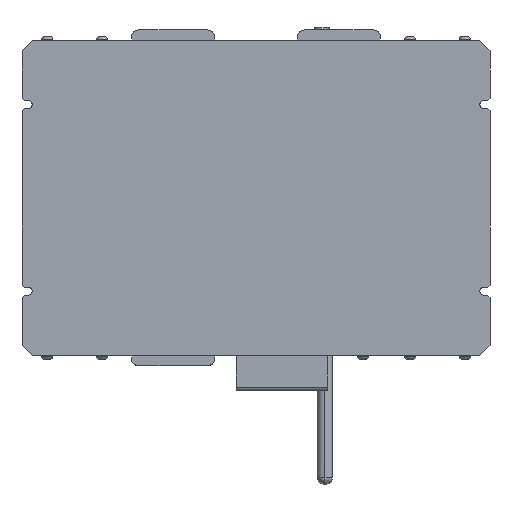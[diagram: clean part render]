
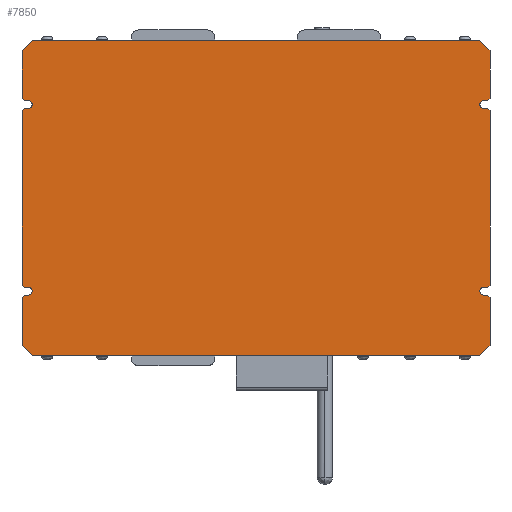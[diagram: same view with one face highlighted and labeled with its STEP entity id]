
A CAD part, front view. The second image highlights one B-rep face of the part: STEP entity #7850.
In plain terms, the highlighted planar face has unit normal (0, -1, 0).
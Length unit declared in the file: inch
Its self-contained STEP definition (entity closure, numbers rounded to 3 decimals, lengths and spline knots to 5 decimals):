
#205=DIRECTION('',(1.,0.,0.));
#206=VECTOR('',#205,10.77859);
#207=CARTESIAN_POINT('',(-5.38929,0.,0.));
#208=LINE('',#207,#206);
#631=CARTESIAN_POINT('',(-5.48929,0.,1.5519));
#632=DIRECTION('',(0.,-1.,0.));
#633=DIRECTION('',(0.,0.,-1.));
#634=AXIS2_PLACEMENT_3D('',#631,#632,#633);
#636=DIRECTION('',(-1.,0.,0.));
#637=VECTOR('',#636,0.1);
#638=CARTESIAN_POINT('',(-5.48929,0.,1.64565));
#639=LINE('',#638,#637);
#640=DIRECTION('',(-0.707,0.,0.707));
#641=VECTOR('',#640,0.07071);
#642=CARTESIAN_POINT('',(-5.58929,0.,1.64565));
#643=LINE('',#642,#641);
#644=DIRECTION('',(0.,0.,1.));
#645=VECTOR('',#644,4.2125);
#646=CARTESIAN_POINT('',(-5.63929,0.,1.69565));
#647=LINE('',#646,#645);
#648=DIRECTION('',(0.707,0.,0.707));
#649=VECTOR('',#648,0.07071);
#650=CARTESIAN_POINT('',(-5.63929,0.,5.90815));
#651=LINE('',#650,#649);
#652=DIRECTION('',(1.,0.,0.));
#653=VECTOR('',#652,0.1);
#654=CARTESIAN_POINT('',(-5.58929,0.,5.95815));
#655=LINE('',#654,#653);
#656=CARTESIAN_POINT('',(-5.48929,0.,6.0519));
#657=DIRECTION('',(0.,-1.,0.));
#658=DIRECTION('',(0.,0.,-1.));
#659=AXIS2_PLACEMENT_3D('',#656,#657,#658);
#661=DIRECTION('',(-1.,0.,0.));
#662=VECTOR('',#661,0.1);
#663=CARTESIAN_POINT('',(-5.48929,0.,6.14565));
#664=LINE('',#663,#662);
#665=DIRECTION('',(-0.707,0.,0.707));
#666=VECTOR('',#665,0.07071);
#667=CARTESIAN_POINT('',(-5.58929,0.,6.14565));
#668=LINE('',#667,#666);
#669=DIRECTION('',(0.,0.,1.));
#670=VECTOR('',#669,1.15435);
#671=CARTESIAN_POINT('',(-5.63929,0.,6.19565));
#672=LINE('',#671,#670);
#673=DIRECTION('',(-0.707,0.,-0.707));
#674=VECTOR('',#673,0.35355);
#675=CARTESIAN_POINT('',(-5.38929,0.,7.6));
#676=LINE('',#675,#674);
#677=DIRECTION('',(-0.707,0.,0.707));
#678=VECTOR('',#677,0.35355);
#679=CARTESIAN_POINT('',(5.63929,0.,7.35));
#680=LINE('',#679,#678);
#681=DIRECTION('',(-0.707,0.,-0.707));
#682=VECTOR('',#681,0.07071);
#683=CARTESIAN_POINT('',(5.63929,0.,6.19565));
#684=LINE('',#683,#682);
#685=DIRECTION('',(-1.,0.,0.));
#686=VECTOR('',#685,0.1);
#687=CARTESIAN_POINT('',(5.58929,0.,6.14565));
#688=LINE('',#687,#686);
#689=CARTESIAN_POINT('',(5.48929,0.,6.0519));
#690=DIRECTION('',(0.,-1.,0.));
#691=DIRECTION('',(0.,0.,1.));
#692=AXIS2_PLACEMENT_3D('',#689,#690,#691);
#694=DIRECTION('',(1.,0.,0.));
#695=VECTOR('',#694,0.1);
#696=CARTESIAN_POINT('',(5.48929,0.,5.95815));
#697=LINE('',#696,#695);
#698=DIRECTION('',(0.707,0.,-0.707));
#699=VECTOR('',#698,0.07071);
#700=CARTESIAN_POINT('',(5.58929,0.,5.95815));
#701=LINE('',#700,#699);
#702=DIRECTION('',(-0.707,0.,-0.707));
#703=VECTOR('',#702,0.07071);
#704=CARTESIAN_POINT('',(5.63929,0.,1.69565));
#705=LINE('',#704,#703);
#706=DIRECTION('',(-1.,0.,0.));
#707=VECTOR('',#706,0.1);
#708=CARTESIAN_POINT('',(5.58929,0.,1.64565));
#709=LINE('',#708,#707);
#710=CARTESIAN_POINT('',(5.48929,0.,1.5519));
#711=DIRECTION('',(0.,-1.,0.));
#712=DIRECTION('',(0.,0.,1.));
#713=AXIS2_PLACEMENT_3D('',#710,#711,#712);
#715=DIRECTION('',(1.,0.,0.));
#716=VECTOR('',#715,0.1);
#717=CARTESIAN_POINT('',(5.48929,0.,1.45815));
#718=LINE('',#717,#716);
#719=DIRECTION('',(0.707,0.,-0.707));
#720=VECTOR('',#719,0.07071);
#721=CARTESIAN_POINT('',(5.58929,0.,1.45815));
#722=LINE('',#721,#720);
#723=DIRECTION('',(0.707,0.,0.707));
#724=VECTOR('',#723,0.35355);
#725=CARTESIAN_POINT('',(5.38929,0.,0.));
#726=LINE('',#725,#724);
#727=DIRECTION('',(0.707,0.,-0.707));
#728=VECTOR('',#727,0.35355);
#729=CARTESIAN_POINT('',(-5.63929,0.,0.25));
#730=LINE('',#729,#728);
#731=DIRECTION('',(0.,0.,1.));
#732=VECTOR('',#731,1.15815);
#733=CARTESIAN_POINT('',(-5.63929,0.,0.25));
#734=LINE('',#733,#732);
#735=DIRECTION('',(0.707,0.,0.707));
#736=VECTOR('',#735,0.07071);
#737=CARTESIAN_POINT('',(-5.63929,0.,1.40815));
#738=LINE('',#737,#736);
#739=DIRECTION('',(1.,0.,0.));
#740=VECTOR('',#739,0.1);
#741=CARTESIAN_POINT('',(-5.58929,0.,1.45815));
#742=LINE('',#741,#740);
#1025=DIRECTION('',(1.,0.,0.));
#1026=VECTOR('',#1025,10.77859);
#1027=CARTESIAN_POINT('',(-5.38929,0.,7.6));
#1028=LINE('',#1027,#1026);
#1971=DIRECTION('',(0.,0.,1.));
#1972=VECTOR('',#1971,1.15815);
#1973=CARTESIAN_POINT('',(5.63929,0.,0.25));
#1974=LINE('',#1973,#1972);
#1979=DIRECTION('',(0.,0.,1.));
#1980=VECTOR('',#1979,4.2125);
#1981=CARTESIAN_POINT('',(5.63929,0.,1.69565));
#1982=LINE('',#1981,#1980);
#1991=DIRECTION('',(0.,0.,1.));
#1992=VECTOR('',#1991,1.15435);
#1993=CARTESIAN_POINT('',(5.63929,0.,6.19565));
#1994=LINE('',#1993,#1992);
#6137=CARTESIAN_POINT('',(5.63929,0.,7.35));
#6138=VERTEX_POINT('',#6137);
#6139=CARTESIAN_POINT('',(5.38929,0.,7.6));
#6140=VERTEX_POINT('',#6139);
#6141=CARTESIAN_POINT('',(5.38929,0.,0.));
#6142=CARTESIAN_POINT('',(5.63929,0.,0.25));
#6143=VERTEX_POINT('',#6141);
#6144=VERTEX_POINT('',#6142);
#6149=CARTESIAN_POINT('',(-5.38929,0.,7.6));
#6150=CARTESIAN_POINT('',(-5.63929,0.,7.35));
#6151=VERTEX_POINT('',#6149);
#6152=VERTEX_POINT('',#6150);
#6161=CARTESIAN_POINT('',(-5.63929,0.,0.25));
#6162=VERTEX_POINT('',#6161);
#6163=CARTESIAN_POINT('',(-5.38929,0.,0.));
#6164=VERTEX_POINT('',#6163);
#6353=CARTESIAN_POINT('',(-5.63929,0.,1.69565));
#6354=VERTEX_POINT('',#6353);
#6355=CARTESIAN_POINT('',(-5.63929,0.,1.40815));
#6356=VERTEX_POINT('',#6355);
#6357=CARTESIAN_POINT('',(-5.63929,0.,6.19565));
#6358=VERTEX_POINT('',#6357);
#6359=CARTESIAN_POINT('',(-5.63929,0.,5.90815));
#6360=VERTEX_POINT('',#6359);
#6361=CARTESIAN_POINT('',(-5.48929,0.,1.45815));
#6362=CARTESIAN_POINT('',(-5.48929,0.,1.64565));
#6363=VERTEX_POINT('',#6361);
#6364=VERTEX_POINT('',#6362);
#6365=CARTESIAN_POINT('',(-5.58929,0.,1.64565));
#6366=VERTEX_POINT('',#6365);
#6367=CARTESIAN_POINT('',(-5.58929,0.,1.45815));
#6368=VERTEX_POINT('',#6367);
#6369=CARTESIAN_POINT('',(-5.48929,0.,5.95815));
#6370=CARTESIAN_POINT('',(-5.48929,0.,6.14565));
#6371=VERTEX_POINT('',#6369);
#6372=VERTEX_POINT('',#6370);
#6373=CARTESIAN_POINT('',(-5.58929,0.,6.14565));
#6374=VERTEX_POINT('',#6373);
#6375=CARTESIAN_POINT('',(-5.58929,0.,5.95815));
#6376=VERTEX_POINT('',#6375);
#6377=CARTESIAN_POINT('',(5.48929,0.,1.64565));
#6378=CARTESIAN_POINT('',(5.48929,0.,1.45815));
#6379=VERTEX_POINT('',#6377);
#6380=VERTEX_POINT('',#6378);
#6381=CARTESIAN_POINT('',(5.58929,0.,1.45815));
#6382=VERTEX_POINT('',#6381);
#6383=CARTESIAN_POINT('',(5.63929,0.,1.40815));
#6384=VERTEX_POINT('',#6383);
#6385=CARTESIAN_POINT('',(5.63929,0.,1.69565));
#6386=CARTESIAN_POINT('',(5.58929,0.,1.64565));
#6387=VERTEX_POINT('',#6385);
#6388=VERTEX_POINT('',#6386);
#6389=CARTESIAN_POINT('',(5.48929,0.,6.14565));
#6390=CARTESIAN_POINT('',(5.48929,0.,5.95815));
#6391=VERTEX_POINT('',#6389);
#6392=VERTEX_POINT('',#6390);
#6393=CARTESIAN_POINT('',(5.58929,0.,5.95815));
#6394=VERTEX_POINT('',#6393);
#6395=CARTESIAN_POINT('',(5.63929,0.,5.90815));
#6396=VERTEX_POINT('',#6395);
#6397=CARTESIAN_POINT('',(5.63929,0.,6.19565));
#6398=CARTESIAN_POINT('',(5.58929,0.,6.14565));
#6399=VERTEX_POINT('',#6397);
#6400=VERTEX_POINT('',#6398);
#7781=CARTESIAN_POINT('',(-5.63929,0.,0.));
#7782=DIRECTION('',(0.,-1.,0.));
#7783=DIRECTION('',(1.,0.,0.));
#7784=AXIS2_PLACEMENT_3D('',#7781,#7782,#7783);
#7785=PLANE('',#7784);
#7787=ORIENTED_EDGE('',*,*,#7786,.T.);
#7789=ORIENTED_EDGE('',*,*,#7788,.T.);
#7791=ORIENTED_EDGE('',*,*,#7790,.T.);
#7793=ORIENTED_EDGE('',*,*,#7792,.T.);
#7795=ORIENTED_EDGE('',*,*,#7794,.T.);
#7797=ORIENTED_EDGE('',*,*,#7796,.T.);
#7799=ORIENTED_EDGE('',*,*,#7798,.T.);
#7801=ORIENTED_EDGE('',*,*,#7800,.T.);
#7803=ORIENTED_EDGE('',*,*,#7802,.T.);
#7805=ORIENTED_EDGE('',*,*,#7804,.T.);
#7807=ORIENTED_EDGE('',*,*,#7806,.F.);
#7809=ORIENTED_EDGE('',*,*,#7808,.T.);
#7811=ORIENTED_EDGE('',*,*,#7810,.F.);
#7813=ORIENTED_EDGE('',*,*,#7812,.F.);
#7815=ORIENTED_EDGE('',*,*,#7814,.T.);
#7817=ORIENTED_EDGE('',*,*,#7816,.T.);
#7819=ORIENTED_EDGE('',*,*,#7818,.T.);
#7821=ORIENTED_EDGE('',*,*,#7820,.T.);
#7823=ORIENTED_EDGE('',*,*,#7822,.T.);
#7825=ORIENTED_EDGE('',*,*,#7824,.F.);
#7827=ORIENTED_EDGE('',*,*,#7826,.T.);
#7829=ORIENTED_EDGE('',*,*,#7828,.T.);
#7831=ORIENTED_EDGE('',*,*,#7830,.T.);
#7833=ORIENTED_EDGE('',*,*,#7832,.T.);
#7835=ORIENTED_EDGE('',*,*,#7834,.T.);
#7837=ORIENTED_EDGE('',*,*,#7836,.F.);
#7838=ORIENTED_EDGE('',*,*,#7771,.F.);
#7839=ORIENTED_EDGE('',*,*,#6932,.F.);
#7841=ORIENTED_EDGE('',*,*,#7840,.F.);
#7843=ORIENTED_EDGE('',*,*,#7842,.T.);
#7845=ORIENTED_EDGE('',*,*,#7844,.T.);
#7847=ORIENTED_EDGE('',*,*,#7846,.T.);
#7848=EDGE_LOOP('',(#7787,#7789,#7791,#7793,#7795,#7797,#7799,#7801,#7803,#7805,
#7807,#7809,#7811,#7813,#7815,#7817,#7819,#7821,#7823,#7825,#7827,#7829,#7831,
#7833,#7835,#7837,#7838,#7839,#7841,#7843,#7845,#7847));
#7849=FACE_OUTER_BOUND('',#7848,.F.);
#7850=ADVANCED_FACE('',(#7849),#7785,.T.);
#635=CIRCLE('',#634,0.09375);
#660=CIRCLE('',#659,0.09375);
#693=CIRCLE('',#692,0.09375);
#714=CIRCLE('',#713,0.09375);
#6932=EDGE_CURVE('',#6164,#6143,#208,.T.);
#7771=EDGE_CURVE('',#6143,#6144,#726,.T.);
#7786=EDGE_CURVE('',#6363,#6364,#635,.T.);
#7788=EDGE_CURVE('',#6364,#6366,#639,.T.);
#7790=EDGE_CURVE('',#6366,#6354,#643,.T.);
#7792=EDGE_CURVE('',#6354,#6360,#647,.T.);
#7794=EDGE_CURVE('',#6360,#6376,#651,.T.);
#7796=EDGE_CURVE('',#6376,#6371,#655,.T.);
#7798=EDGE_CURVE('',#6371,#6372,#660,.T.);
#7800=EDGE_CURVE('',#6372,#6374,#664,.T.);
#7802=EDGE_CURVE('',#6374,#6358,#668,.T.);
#7804=EDGE_CURVE('',#6358,#6152,#672,.T.);
#7806=EDGE_CURVE('',#6151,#6152,#676,.T.);
#7808=EDGE_CURVE('',#6151,#6140,#1028,.T.);
#7810=EDGE_CURVE('',#6138,#6140,#680,.T.);
#7812=EDGE_CURVE('',#6399,#6138,#1994,.T.);
#7814=EDGE_CURVE('',#6399,#6400,#684,.T.);
#7816=EDGE_CURVE('',#6400,#6391,#688,.T.);
#7818=EDGE_CURVE('',#6391,#6392,#693,.T.);
#7820=EDGE_CURVE('',#6392,#6394,#697,.T.);
#7822=EDGE_CURVE('',#6394,#6396,#701,.T.);
#7824=EDGE_CURVE('',#6387,#6396,#1982,.T.);
#7826=EDGE_CURVE('',#6387,#6388,#705,.T.);
#7828=EDGE_CURVE('',#6388,#6379,#709,.T.);
#7830=EDGE_CURVE('',#6379,#6380,#714,.T.);
#7832=EDGE_CURVE('',#6380,#6382,#718,.T.);
#7834=EDGE_CURVE('',#6382,#6384,#722,.T.);
#7836=EDGE_CURVE('',#6144,#6384,#1974,.T.);
#7840=EDGE_CURVE('',#6162,#6164,#730,.T.);
#7842=EDGE_CURVE('',#6162,#6356,#734,.T.);
#7844=EDGE_CURVE('',#6356,#6368,#738,.T.);
#7846=EDGE_CURVE('',#6368,#6363,#742,.T.);
